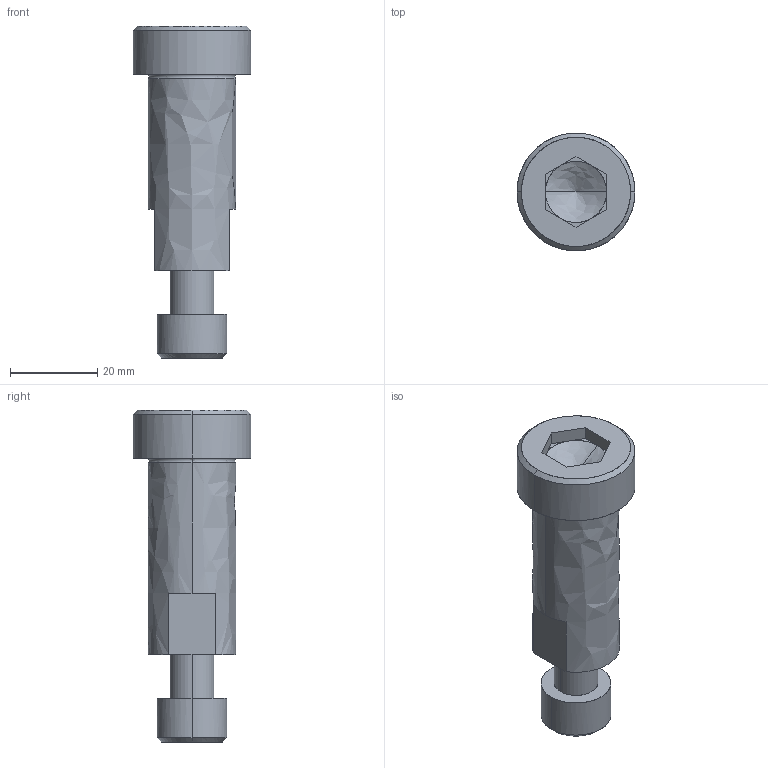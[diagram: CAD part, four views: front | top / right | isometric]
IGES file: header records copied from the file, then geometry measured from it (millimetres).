
Global section: file name: E:\UnigraphicsGraphicData\MISUMI_PRESS-PARTS\IGES\3d_sbt20-45_05076_r00.igs; native system: NX V5.0; preprocessor: UGS NX IGES V5.0; author: MISUMI; date: 20110105.162440; units: millimetre
Bounding box: 27 x 27 x 76 mm (x, y, z)
Surface area: 7636.3 mm2 (no closed solid volume)
Topology: 0 solids, 0 shells, 56 faces, 318 edges, 314 vertices
Faces by surface type: bspline 56
